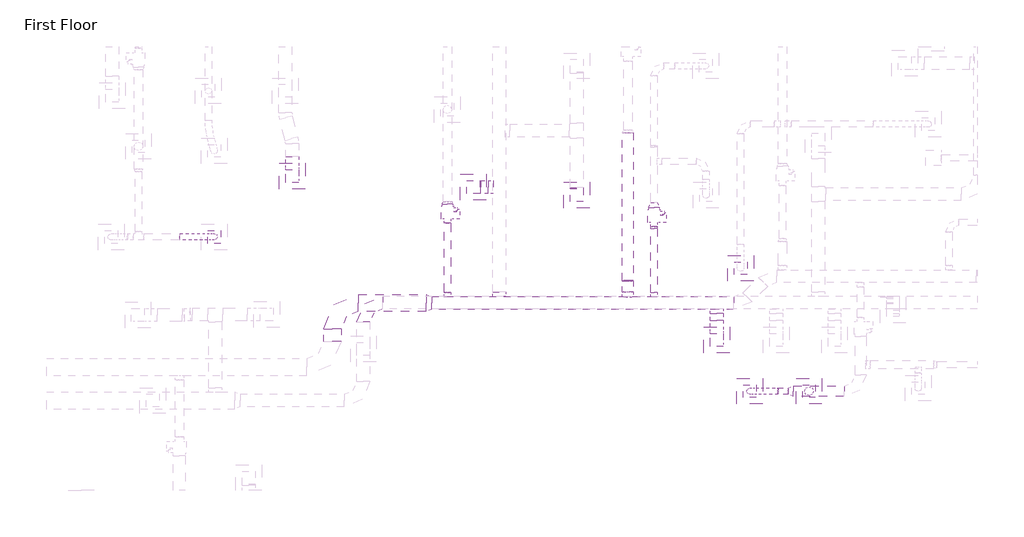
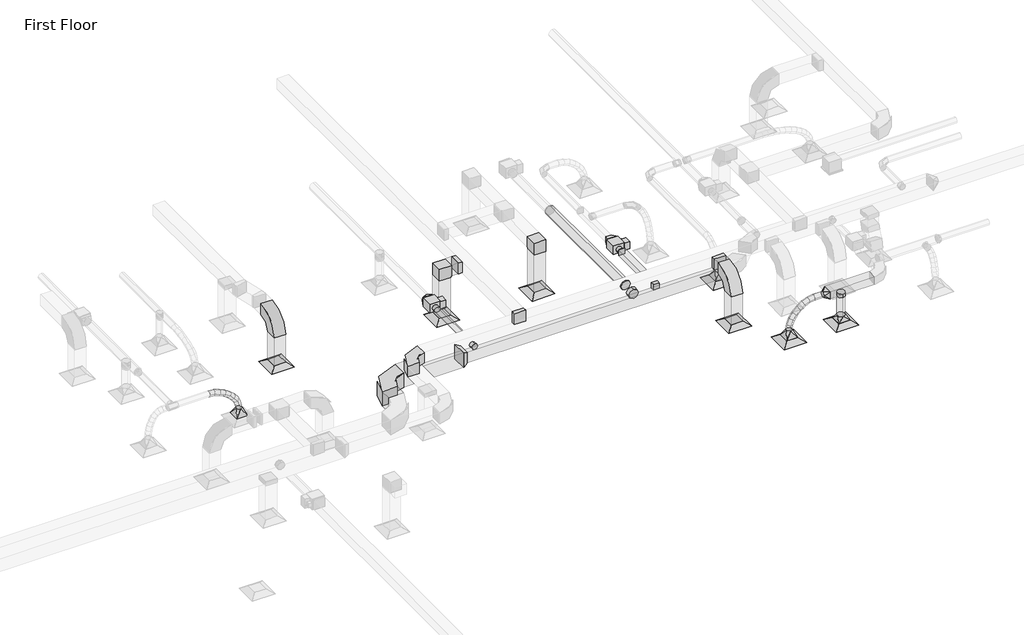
# One storey, part 19 of 61: 23 duct fittings, 18 duct segments, 7 air terminals, 2 proxies.
"""IFC4 building model written with IfcOpenShell, lengths in millimetres."""

from ifc_helpers import new_model, si_unit, point, frame, frame_2d, origin, place, context, project, spatial, polyline, circle_curve, ellipse_curve, trimmed, segment, composite_curve, outline, extrude, transform, mapped, element, save
from ifc_brep_helpers import plane_surface, cylinder_surface, advanced_brep
from components import m_exhaust_grill_er_600_x_600_face_300_x_300_connection_ff221211, m_vav_unit_single_duct_150_mm_ffdab17b, m_rectangular_elbow_mitered_standard_8eee5933, m_rectangular_elbow_radius_1_5_w_86011e9f, m_rectangular_elbow_radius_1_5_w_2e3e53bc, m_rectangular_takeoff_standard_c00386d1, m_rectangular_takeoff_standard_b44bfa45, m_rectangular_takeoff_standard_5fad1069, m_rectangular_transition_angle_45_degree_d90ebce3, m_rectangular_transition_angle_45_degree_c81a1194, m_rectangular_to_round_transition_angle_45_degree_8f201c83, m_rectangular_to_round_transition_angle_45_degree_c3b12eae, m_rectangular_to_round_transition_angle_45_degree_2860c485, m_rectangular_to_round_transition_angle_45_degree_1b7ae117, m_rectangular_to_round_transition_angle_45_degree_fe40cbe3, m_round_elbow_1_5_d_b66a0a7e, m_round_takeoff_standard_8efdd074, m_round_takeoff_standard_24c67b50, m_round_takeoff_standard_3d7a5062

model = new_model("IFC4")

# Units and contexts
model_context = context("Model", 3, world=origin())
ifc_project = project(units=[si_unit("LENGTHUNIT", "METRE", prefix="MILLI")], contexts=[model_context])

# Site, building, storey
site = spatial("IfcSite", under=ifc_project)
building = spatial("IfcBuilding", under=site)
storey = spatial("IfcBuildingStorey", under=building, Name="First Floor", Elevation=0.0)

# Air terminals
placement = place(None, origin())
m_exhaust_grill_er_600_x_600_face_300_x_300_connection_shape = m_exhaust_grill_er_600_x_600_face_300_x_300_connection_ff221211(model_context)
element("IfcAirTerminal", 1, ObjectType="M_Return Register : RR-600 x 600 Face 300 x 300 Connection", at=placement, inside=storey, context=model_context, shape_type="MappedRepresentation", body=[
    mapped(m_exhaust_grill_er_600_x_600_face_300_x_300_connection_shape, transform((-10620.9734193, 12189.4764857, 2680.0), x_axis=(1.0, 0.0, 0.0), y_axis=(0.0, 1.0, 0.0), z_axis=(0.0, 0.0, 1.0))),
])
element("IfcAirTerminal", 2, ObjectType="M_Return Register : RR-600 x 600 Face 300 x 300 Connection", at=placement, inside=storey, context=model_context, shape_type="MappedRepresentation", body=[
    mapped(m_exhaust_grill_er_600_x_600_face_300_x_300_connection_shape, transform((-13865.3877031, 15548.9958677, 2680.0), x_axis=(1.0, 0.0, 0.0), y_axis=(0.0, 1.0, 0.0), z_axis=(0.0, 0.0, 1.0))),
])
element("IfcAirTerminal", 3, ObjectType="M_Return Register : RR-600 x 600 Face 300 x 300 Connection", at=placement, inside=storey, context=model_context, shape_type="MappedRepresentation", body=[
    mapped(m_exhaust_grill_er_600_x_600_face_300_x_300_connection_shape, transform((-16264.984961, 15733.600359, 2680.0), x_axis=(1.0, 0.0, 0.0), y_axis=(0.0, 1.0, 0.0), z_axis=(0.0, 0.0, 1.0))),
])
element("IfcAirTerminal", 4, ObjectType="M_Return Register : RR-600 x 600 Face 300 x 300 Connection", at=placement, inside=storey, context=model_context, shape_type="MappedRepresentation", body=[
    mapped(m_exhaust_grill_er_600_x_600_face_300_x_300_connection_shape, transform((-20470.7099363, 15993.554641, 2680.0), x_axis=(1.0, 0.0, 0.0), y_axis=(0.0, 1.0, 0.0), z_axis=(0.0, 0.0, 1.0))),
])
element("IfcAirTerminal", 5, ObjectType="M_Supply Diffuser : SD-600 x 600 Face 300 x 300 Connection", at=placement, inside=storey, context=model_context, shape_type="MappedRepresentation", body=[
    mapped(m_exhaust_grill_er_600_x_600_face_300_x_300_connection_shape, transform((-10064.6506734, 13851.0402346, 2680.0), x_axis=(1.0, 0.0, 0.0), y_axis=(0.0, 1.0, 0.0), z_axis=(0.0, 0.0, 1.0))),
])
element("IfcAirTerminal", 6, ObjectType="M_Supply Diffuser : SD-600 x 600 Face 300 x 300 Connection", at=placement, inside=storey, context=model_context, shape_type="MappedRepresentation", body=[
    mapped(m_exhaust_grill_er_600_x_600_face_300_x_300_connection_shape, transform((-9848.7483694, 10997.0419271, 2680.0), x_axis=(1.0, 0.0, 0.0), y_axis=(0.0, 1.0, 0.0), z_axis=(0.0, 0.0, 1.0))),
])
element("IfcAirTerminal", 7, ObjectType="M_Supply Diffuser : SD-600 x 600 Face 300 x 300 Connection", at=placement, inside=storey, context=model_context, shape_type="MappedRepresentation", body=[
    mapped(m_exhaust_grill_er_600_x_600_face_300_x_300_connection_shape, transform((-8477.637011, 10997.0419271, 2680.0), x_axis=(1.0, 0.0, 0.0), y_axis=(0.0, 1.0, 0.0), z_axis=(0.0, 0.0, 1.0))),
])

# Proxies
m_vav_unit_single_duct_150_mm_shape = m_vav_unit_single_duct_150_mm_ffdab17b(model_context)
element("IfcBuildingElementProxy", 8, Name="M_VAV Unit - Single Duct : 150 mm", ObjectType="M_VAV Unit - Single Duct : 150 mm", at=placement, inside=storey, context=model_context, shape_type="MappedRepresentation", body=[
    mapped(m_vav_unit_single_duct_150_mm_shape, transform((-12071.862176, 14917.5073912, 3500.0), x_axis=(0.0, 1.0, 0.0), y_axis=(-0.9999999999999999, 0.0, 0.0), z_axis=(0.0, 0.0, 0.9999999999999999))),
])
element("IfcBuildingElementProxy", 9, Name="M_VAV Unit - Single Duct : 150 mm", ObjectType="M_VAV Unit - Single Duct : 150 mm", at=placement, inside=storey, context=model_context, shape_type="MappedRepresentation", body=[
    mapped(m_vav_unit_single_duct_150_mm_shape, transform((-16867.9125198, 14998.591812, 3500.0), x_axis=(0.0, 1.0, 0.0), y_axis=(-1.0, 0.0, 0.0), z_axis=(0.0, 0.0, 1.0))),
])

# Duct fittings
m_rectangular_elbow_mitered_standard_shape = m_rectangular_elbow_mitered_standard_8eee5933(model_context)
element("IfcDuctFitting", 10, ObjectType="M_Rectangular Elbow - Mitered : Standard", at=placement, inside=storey, context=model_context, shape_type="MappedRepresentation", body=[
    mapped(m_rectangular_elbow_mitered_standard_shape, transform((-16264.984961, 15733.600359, 4000.0), x_axis=(0.0, 0.0, 1.0), y_axis=(1.0, 0.0, 0.0), z_axis=(0.0, 1.0, 0.0))),
])
element("IfcDuctFitting", 11, ObjectType="M_Rectangular Elbow - Mitered : Standard", at=placement, inside=storey, context=model_context, shape_type="MappedRepresentation", body=[
    mapped(m_rectangular_elbow_mitered_standard_shape, transform((-13865.3877031, 15548.9958677, 4000.0), x_axis=(0.0, 0.0, 1.0), y_axis=(0.0, 1.0, 0.0), z_axis=(-1.0, 0.0, 0.0))),
])
m_rectangular_elbow_radius_1_5_w_shape = m_rectangular_elbow_radius_1_5_w_86011e9f(model_context)
element("IfcDuctFitting", 12, ObjectType="M_Rectangular Elbow - Radius : 1.5 W", at=placement, inside=storey, context=model_context, shape_type="MappedRepresentation", body=[
    mapped(m_rectangular_elbow_radius_1_5_w_shape, transform((-10620.9734193, 12189.4764857, 4000.0), x_axis=(0.0, -1.0, 0.0), y_axis=(0.0, 0.0, -1.0), z_axis=(1.0, 0.0, 0.0))),
])
element("IfcDuctFitting", 13, ObjectType="M_Rectangular Elbow - Radius : 1.5 W", at=placement, inside=storey, context=model_context, shape_type="MappedRepresentation", body=[
    mapped(m_rectangular_elbow_radius_1_5_w_shape, transform((-18815.882948, 13054.4648445, 4000.0), x_axis=(-1.0, 0.0, 0.0), y_axis=(0.0, -1.0, 0.0), z_axis=(0.0, 0.0, 1.0))),
])
element("IfcDuctFitting", 14, ObjectType="M_Rectangular Elbow - Radius : 1.5 W", at=placement, inside=storey, context=model_context, shape_type="MappedRepresentation", body=[
    mapped(m_rectangular_elbow_radius_1_5_w_shape, transform((-20470.7099363, 15993.554641, 4000.0), x_axis=(0.0, 0.0, 1.0), y_axis=(0.0, 1.0, 0.0), z_axis=(-1.0, 0.0, 0.0))),
])
m_rectangular_elbow_radius_1_5_w_2_shape = m_rectangular_elbow_radius_1_5_w_2e3e53bc(model_context)
element("IfcDuctFitting", 15, ObjectType="M_Rectangular Elbow - Radius : 1.5 W", at=placement, inside=storey, context=model_context, shape_type="MappedRepresentation", body=[
    mapped(m_rectangular_elbow_radius_1_5_w_2_shape, transform((-19535.3729051, 13043.9492446, 3609.5), x_axis=(-1.0, 0.0, 0.0), y_axis=(0.0, -1.0, 0.0), z_axis=(0.0, 0.0, 1.0))),
])
m_rectangular_takeoff_standard_shape = m_rectangular_takeoff_standard_c00386d1(model_context)
element("IfcDuctFitting", 16, ObjectType="M_Rectangular Takeoff : Standard", at=placement, inside=storey, context=model_context, shape_type="MappedRepresentation", body=[
    mapped(m_rectangular_takeoff_standard_shape, transform((-10620.9734193, 12904.4648445, 4000.0), x_axis=(0.0, -1.0, 0.0), y_axis=(-1.0, 0.0, 0.0), z_axis=(0.0, 0.0, -1.0))),
])
m_rectangular_takeoff_standard_2_shape = m_rectangular_takeoff_standard_b44bfa45(model_context)
element("IfcDuctFitting", 17, ObjectType="M_Rectangular Takeoff : Standard", at=placement, inside=storey, context=model_context, shape_type="MappedRepresentation", body=[
    mapped(m_rectangular_takeoff_standard_2_shape, transform((-15815.3877031, 15733.600359, 4000.0), x_axis=(-1.0, 0.0, 0.0), y_axis=(0.0, 1.0, 0.0), z_axis=(0.0, 0.0, -1.0))),
])
element("IfcDuctFitting", 18, ObjectType="M_Rectangular Takeoff : Standard", at=placement, inside=storey, context=model_context, shape_type="MappedRepresentation", body=[
    mapped(m_rectangular_takeoff_standard_2_shape, transform((-15665.3877031, 13204.4648445, 4000.0), x_axis=(0.0, 1.0, 0.0), y_axis=(1.0, 0.0, 0.0), z_axis=(0.0, 0.0, -1.0))),
])
m_rectangular_takeoff_standard_3_shape = m_rectangular_takeoff_standard_5fad1069(model_context)
element("IfcDuctFitting", 19, ObjectType="M_Rectangular Takeoff : Standard", at=placement, inside=storey, context=model_context, shape_type="MappedRepresentation", body=[
    mapped(m_rectangular_takeoff_standard_3_shape, transform((-12072.712176, 13193.9492446, 3609.5021985), x_axis=(0.0, 0.9999999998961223, 1.4413723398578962e-05), y_axis=(1.0, 0.0, 0.0), z_axis=(0.0, 1.4413723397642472e-05, -0.9999999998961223))),
])
m_rectangular_transition_angle_45_degree_shape = m_rectangular_transition_angle_45_degree_d90ebce3(model_context)
element("IfcDuctFitting", 20, ObjectType="M_Rectangular Transition - Angle : 45 Degree", at=placement, inside=storey, context=model_context, shape_type="MappedRepresentation", body=[
    mapped(m_rectangular_transition_angle_45_degree_shape, transform((-12071.862176, 15260.3073912, 3619.05), x_axis=(0.0, 1.0, 0.0), y_axis=(-1.0, 0.0, 0.0), z_axis=(0.0, 0.0, 1.0))),
])
m_rectangular_transition_angle_45_degree_2_shape = m_rectangular_transition_angle_45_degree_c81a1194(model_context)
element("IfcDuctFitting", 21, ObjectType="M_Rectangular Transition - Angle : 45 Degree", at=placement, inside=storey, context=model_context, shape_type="MappedRepresentation", body=[
    mapped(m_rectangular_transition_angle_45_degree_2_shape, transform((-17235.3729051, 13043.9492446, 3609.5), x_axis=(-1.0, 0.0, 0.0), y_axis=(0.0, -1.0, 0.0), z_axis=(0.0, 0.0, 1.0))),
])
m_rectangular_to_round_transition_angle_45_degree_shape = m_rectangular_to_round_transition_angle_45_degree_8f201c83(model_context)
element("IfcDuctFitting", 22, ObjectType="M_Rectangular to Round Transition - Angle : 45 Degree", at=placement, inside=storey, context=model_context, shape_type="MappedRepresentation", body=[
    mapped(m_rectangular_to_round_transition_angle_45_degree_shape, transform((-9848.7483694, 10997.0419271, 2781.6), x_axis=(0.0, 0.0, 1.0), y_axis=(1.0, 0.0, 0.0), z_axis=(0.0, 1.0, 0.0))),
])
element("IfcDuctFitting", 23, ObjectType="M_Rectangular to Round Transition - Angle : 45 Degree", at=placement, inside=storey, context=model_context, shape_type="MappedRepresentation", body=[
    mapped(m_rectangular_to_round_transition_angle_45_degree_shape, transform((-10064.6506734, 13851.0402346, 2781.6), x_axis=(0.0, 0.0, 1.0), y_axis=(1.0, 0.0, 0.0), z_axis=(0.0, 1.0, 0.0))),
])
element("IfcDuctFitting", 24, ObjectType="M_Rectangular to Round Transition - Angle : 45 Degree", at=placement, inside=storey, context=model_context, shape_type="MappedRepresentation", body=[
    mapped(m_rectangular_to_round_transition_angle_45_degree_shape, transform((-22276.7081761, 14579.6926206, 2781.6), x_axis=(0.0, 0.0, 1.0), y_axis=(1.0, 0.0, 0.0), z_axis=(0.0, 1.0, 0.0))),
])
m_rectangular_to_round_transition_angle_45_degree_2_shape = m_rectangular_to_round_transition_angle_45_degree_c3b12eae(model_context)
element("IfcDuctFitting", 25, ObjectType="M_Rectangular to Round Transition - Angle : 45 Degree", at=placement, inside=storey, context=model_context, shape_type="MappedRepresentation", body=[
    mapped(m_rectangular_to_round_transition_angle_45_degree_2_shape, transform((-8840.0, 10997.0419271, 3628.625), x_axis=(-1.0, 0.0, 0.0), y_axis=(0.0, -1.0, 0.0), z_axis=(0.0, 0.0, 1.0))),
])
m_rectangular_to_round_transition_angle_45_degree_3_shape = m_rectangular_to_round_transition_angle_45_degree_2860c485(model_context)
element("IfcDuctFitting", 26, ObjectType="M_Rectangular to Round Transition - Angle : 45 Degree", at=placement, inside=storey, context=model_context, shape_type="MappedRepresentation", body=[
    mapped(m_rectangular_to_round_transition_angle_45_degree_3_shape, transform((-12072.712176, 14778.4073912, 3609.5244595), x_axis=(0.0, 0.9999999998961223, 1.4413723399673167e-05), y_axis=(-1.0, 0.0, 0.0), z_axis=(0.0, -1.4413723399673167e-05, 0.9999999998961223))),
])
m_rectangular_to_round_transition_angle_45_degree_4_shape = m_rectangular_to_round_transition_angle_45_degree_1b7ae117(model_context)
element("IfcDuctFitting", 27, ObjectType="M_Rectangular to Round Transition - Angle : 45 Degree", at=placement, inside=storey, context=model_context, shape_type="MappedRepresentation", body=[
    mapped(m_rectangular_to_round_transition_angle_45_degree_4_shape, transform((-16867.9125198, 15341.391812, 3619.05), x_axis=(0.0, 1.0, 0.0), y_axis=(-1.0, 0.0, 0.0), z_axis=(0.0, 0.0, 1.0))),
])
m_rectangular_to_round_transition_angle_45_degree_5_shape = m_rectangular_to_round_transition_angle_45_degree_fe40cbe3(model_context)
element("IfcDuctFitting", 28, ObjectType="M_Rectangular to Round Transition - Angle : 45 Degree", at=placement, inside=storey, context=model_context, shape_type="MappedRepresentation", body=[
    mapped(m_rectangular_to_round_transition_angle_45_degree_5_shape, transform((-8477.637011, 10997.0419271, 2781.6), x_axis=(0.0, 0.0, 1.0), y_axis=(0.0, -1.0, 0.0), z_axis=(1.0, 0.0, 0.0))),
])
m_round_elbow_1_5_d_shape = m_round_elbow_1_5_d_b66a0a7e(model_context)
element("IfcDuctFitting", 29, ObjectType="M_Round Elbow : 1.5 D", at=placement, inside=storey, context=model_context, shape_type="MappedRepresentation", body=[
    mapped(m_round_elbow_1_5_d_shape, transform((-12680.8992424, 13560.9596581, 3634.6), x_axis=(0.0, -0.9999999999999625, -2.741713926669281e-07), y_axis=(0.0, 2.741713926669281e-07, -0.9999999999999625), z_axis=(1.0, 0.0, 0.0))),
])
m_round_takeoff_standard_shape = m_round_takeoff_standard_8efdd074(model_context)
element("IfcDuctFitting", 30, ObjectType="M_Round Takeoff : Standard", at=placement, inside=storey, context=model_context, shape_type="MappedRepresentation", body=[
    mapped(m_round_takeoff_standard_shape, transform((-8477.637011, 10997.0419271, 3528.625), x_axis=(0.0, 0.0, -1.0), y_axis=(0.0, 1.0, 0.0), z_axis=(1.0, 0.0, 0.0))),
])
m_round_takeoff_standard_2_shape = m_round_takeoff_standard_24c67b50(model_context)
element("IfcDuctFitting", 31, ObjectType="M_Round Takeoff : Standard", at=placement, inside=storey, context=model_context, shape_type="MappedRepresentation", body=[
    mapped(m_round_takeoff_standard_2_shape, transform((-12680.8992424, 13193.9492446, 3616.7822518), x_axis=(0.0, 0.9988236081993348, 0.04849123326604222), y_axis=(1.0, 0.0, 0.0), z_axis=(0.0, 0.04849123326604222, -0.9988236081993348))),
])
m_round_takeoff_standard_3_shape = m_round_takeoff_standard_3d7a5062(model_context)
element("IfcDuctFitting", 32, ObjectType="M_Round Takeoff : Standard", at=placement, inside=storey, context=model_context, shape_type="MappedRepresentation", body=[
    mapped(m_round_takeoff_standard_3_shape, transform((-16868.7625198, 13193.9492446, 3609.5020237), x_axis=(0.0, 0.9999999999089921, 1.3491325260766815e-05), y_axis=(1.0000000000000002, 0.0, 0.0), z_axis=(0.0, 1.3491325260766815e-05, -0.9999999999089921))),
])

# Duct segments
element("IfcDuctSegment", 33, ObjectType="Flex - Round", at=placement, inside=storey, context=model_context, shape_type="AdvancedBrep", body=[
    advanced_brep(
    [(-9200.0, 10922.0419271, 3628.625), (-9188.5492894, 10997.0419271, 3554.5042794), (-9200.0, 11072.0419271, 3628.625), (-9211.4507106, 10997.0419271, 3702.7457206), (-9333.5162447, 10922.0419271, 3607.9984348), (-9312.3980074, 10997.0419271, 3535.3712244), (-9333.5162447, 11072.0419271, 3607.9984348), (-9354.634482, 10997.0419271, 3680.6256453), (-9848.7483694, 10922.0419271, 2962.6660172), (-9922.9583659, 10997.0419271, 2973.5231079), (-9848.7483694, 11072.0419271, 2962.6660172), (-9774.5383729, 10997.0419271, 2951.8089265), (-9464.1422622, 10922.0419271, 3550.8091163), (-9426.8928836, 10997.0419271, 3485.2442737), (-9464.1422622, 11072.0419271, 3550.8091163), (-9501.3916409, 10997.0419271, 3616.373959), (-9585.4446077, 10922.0419271, 3464.09261), (-9536.2660533, 10997.0419271, 3407.0556852), (-9585.4446077, 11072.0419271, 3464.09261), (-9634.623162, 10997.0419271, 3521.1295348), (-9690.989836, 10922.0419271, 3354.8844814), (-9632.3833246, 10997.0419271, 3307.6027068), (-9690.989836, 11072.0419271, 3354.8844814), (-9749.5963474, 10997.0419271, 3402.1662561), (-9774.3445024, 10922.0419271, 3230.2202961), (-9707.8315646, 10997.0419271, 3194.7632727), (-9774.3445024, 11072.0419271, 3230.2202961), (-9840.8574401, 10997.0419271, 3265.6773195), (-9829.0751618, 10922.0419271, 3097.1356195), (-9756.2012599, 10997.0419271, 3077.1461033), (-9829.0751618, 11072.0419271, 3097.1356195), (-9901.9490638, 10997.0419271, 3117.1251357)],
    [
        (0, 1, circle_curve(frame((-9200.0, 10997.0419271, 3628.625), z_axis=(0.9882762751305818, 0.0, 0.15267614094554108), x_axis=(0.0, -1.0, 0.0)), 75.0)),
        (1, 2, circle_curve(frame((-9200.0, 10997.0419271, 3628.625), z_axis=(0.9882762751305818, 0.0, 0.15267614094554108), x_axis=(0.0, -1.0, 0.0)), 75.0)),
        (2, 3, circle_curve(frame((-9200.0, 10997.0419271, 3628.625), z_axis=(0.9882762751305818, 0.0, 0.15267614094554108), x_axis=(0.0, -1.0, 0.0)), 75.0)),
        (3, 0, circle_curve(frame((-9200.0, 10997.0419271, 3628.625), z_axis=(0.9882762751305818, 0.0, 0.15267614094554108), x_axis=(0.0, -1.0, 0.0)), 75.0)),
        (0, 4),
        (4, 5, ellipse_curve(frame((-9333.5162447, 10997.0419271, 3607.9984348), z_axis=(0.9602296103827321, 0.0, 0.2792115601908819), x_axis=(0.2792115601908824, 0.0, -0.960229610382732)), 75.635254, 75.0)),
        (5, 1),
        (5, 6, ellipse_curve(frame((-9333.5162447, 10997.0419271, 3607.9984348), z_axis=(0.9602296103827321, 0.0, 0.2792115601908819), x_axis=(0.2792115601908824, 0.0, -0.960229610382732)), 75.635254, 75.0)),
        (6, 2),
        (6, 7, ellipse_curve(frame((-9333.5162447, 10997.0419271, 3607.9984348), z_axis=(0.9602296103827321, 0.0, 0.2792115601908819), x_axis=(0.2792115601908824, 0.0, -0.960229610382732)), 75.635254, 75.0)),
        (7, 3),
        (7, 4, ellipse_curve(frame((-9333.5162447, 10997.0419271, 3607.9984348), z_axis=(0.9602296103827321, 0.0, 0.2792115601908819), x_axis=(0.2792115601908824, 0.0, -0.960229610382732)), 75.635254, 75.0)),
        (8, 9, circle_curve(frame((-9848.7483694, 10997.0419271, 2962.6660172), z_axis=(-0.1447612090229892, 0.0, -0.9894666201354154), x_axis=(0.0, -1.0, 0.0)), 75.0)),
        (9, 10, circle_curve(frame((-9848.7483694, 10997.0419271, 2962.6660172), z_axis=(-0.1447612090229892, 0.0, -0.9894666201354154), x_axis=(0.0, -1.0, 0.0)), 75.0)),
        (10, 11, circle_curve(frame((-9848.7483694, 10997.0419271, 2962.6660172), z_axis=(-0.1447612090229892, 0.0, -0.9894666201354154), x_axis=(0.0, -1.0, 0.0)), 75.0)),
        (11, 8, circle_curve(frame((-9848.7483694, 10997.0419271, 2962.6660172), z_axis=(-0.1447612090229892, 0.0, -0.9894666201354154), x_axis=(0.0, -1.0, 0.0)), 75.0)),
        (4, 12),
        (12, 13, ellipse_curve(frame((-9464.1422622, 10997.0419271, 3550.8091163), z_axis=(0.8694757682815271, 0.0, 0.4939755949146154), x_axis=(0.49397559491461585, 0.0, -0.8694757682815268)), 75.4073259, 75.0)),
        (13, 5),
        (13, 14, ellipse_curve(frame((-9464.1422622, 10997.0419271, 3550.8091163), z_axis=(0.8694757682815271, 0.0, 0.4939755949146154), x_axis=(0.49397559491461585, 0.0, -0.8694757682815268)), 75.4073259, 75.0)),
        (14, 6),
        (14, 15, ellipse_curve(frame((-9464.1422622, 10997.0419271, 3550.8091163), z_axis=(0.8694757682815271, 0.0, 0.4939755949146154), x_axis=(0.49397559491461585, 0.0, -0.8694757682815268)), 75.4073259, 75.0)),
        (15, 7),
        (15, 12, ellipse_curve(frame((-9464.1422622, 10997.0419271, 3550.8091163), z_axis=(0.8694757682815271, 0.0, 0.4939755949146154), x_axis=(0.49397559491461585, 0.0, -0.8694757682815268)), 75.4073259, 75.0)),
        (12, 16),
        (16, 17, ellipse_curve(frame((-9585.4446077, 10997.0419271, 3464.09261), z_axis=(0.7573522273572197, 0.0, 0.6530065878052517), x_axis=(0.6530065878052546, 0.0, -0.7573522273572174)), 75.310962, 75.0)),
        (17, 13),
        (17, 18, ellipse_curve(frame((-9585.4446077, 10997.0419271, 3464.09261), z_axis=(0.7573522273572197, 0.0, 0.6530065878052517), x_axis=(0.6530065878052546, 0.0, -0.7573522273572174)), 75.310962, 75.0)),
        (18, 14),
        (18, 19, ellipse_curve(frame((-9585.4446077, 10997.0419271, 3464.09261), z_axis=(0.7573522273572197, 0.0, 0.6530065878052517), x_axis=(0.6530065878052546, 0.0, -0.7573522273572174)), 75.310962, 75.0)),
        (19, 15),
        (19, 16, ellipse_curve(frame((-9585.4446077, 10997.0419271, 3464.09261), z_axis=(0.7573522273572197, 0.0, 0.6530065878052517), x_axis=(0.6530065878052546, 0.0, -0.7573522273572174)), 75.310962, 75.0)),
        (16, 20),
        (20, 21, ellipse_curve(frame((-9690.989836, 10997.0419271, 3354.8844814), z_axis=(0.6279009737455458, 0.0, 0.7782932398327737), x_axis=(0.7782932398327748, 0.0, -0.6279009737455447)), 75.301324, 75.0)),
        (21, 17),
        (21, 22, ellipse_curve(frame((-9690.989836, 10997.0419271, 3354.8844814), z_axis=(0.6279009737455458, 0.0, 0.7782932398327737), x_axis=(0.7782932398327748, 0.0, -0.6279009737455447)), 75.301324, 75.0)),
        (22, 18),
        (22, 23, ellipse_curve(frame((-9690.989836, 10997.0419271, 3354.8844814), z_axis=(0.6279009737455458, 0.0, 0.7782932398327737), x_axis=(0.7782932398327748, 0.0, -0.6279009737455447)), 75.301324, 75.0)),
        (23, 19),
        (23, 20, ellipse_curve(frame((-9690.989836, 10997.0419271, 3354.8844814), z_axis=(0.6279009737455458, 0.0, 0.7782932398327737), x_axis=(0.7782932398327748, 0.0, -0.6279009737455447)), 75.301324, 75.0)),
        (20, 24),
        (24, 25, ellipse_curve(frame((-9774.3445024, 10997.0419271, 3230.2202961), z_axis=(0.47041734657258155, 0.0, 0.8824440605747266), x_axis=(0.8824440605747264, 0.0, -0.47041734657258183)), 75.3735457, 75.0)),
        (25, 21),
        (25, 26, ellipse_curve(frame((-9774.3445024, 10997.0419271, 3230.2202961), z_axis=(0.47041734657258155, 0.0, 0.8824440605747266), x_axis=(0.8824440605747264, 0.0, -0.47041734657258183)), 75.3735457, 75.0)),
        (26, 22),
        (26, 27, ellipse_curve(frame((-9774.3445024, 10997.0419271, 3230.2202961), z_axis=(0.47041734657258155, 0.0, 0.8824440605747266), x_axis=(0.8824440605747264, 0.0, -0.47041734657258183)), 75.3735457, 75.0)),
        (27, 23),
        (27, 24, ellipse_curve(frame((-9774.3445024, 10997.0419271, 3230.2202961), z_axis=(0.47041734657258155, 0.0, 0.8824440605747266), x_axis=(0.8824440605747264, 0.0, -0.47041734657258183)), 75.3735457, 75.0)),
        (24, 28),
        (28, 29, ellipse_curve(frame((-9829.0751618, 10997.0419271, 3097.1356195), z_axis=(0.2645313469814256, 0.0, 0.9643770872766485), x_axis=(0.9643770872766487, 0.0, -0.2645313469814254)), 75.565775, 75.0)),
        (29, 25),
        (29, 30, ellipse_curve(frame((-9829.0751618, 10997.0419271, 3097.1356195), z_axis=(0.2645313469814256, 0.0, 0.9643770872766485), x_axis=(0.9643770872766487, 0.0, -0.2645313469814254)), 75.565775, 75.0)),
        (30, 26),
        (30, 31, ellipse_curve(frame((-9829.0751618, 10997.0419271, 3097.1356195), z_axis=(0.2645313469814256, 0.0, 0.9643770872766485), x_axis=(0.9643770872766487, 0.0, -0.2645313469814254)), 75.565775, 75.0)),
        (31, 27),
        (31, 28, ellipse_curve(frame((-9829.0751618, 10997.0419271, 3097.1356195), z_axis=(0.2645313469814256, 0.0, 0.9643770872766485), x_axis=(0.9643770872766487, 0.0, -0.2645313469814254)), 75.565775, 75.0)),
        (28, 8),
        (11, 29),
        (10, 30),
        (9, 31),
    ],
    [
        plane_surface(frame((-9200.0, 11072.0419271, 3628.625), z_axis=(0.9882762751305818, 0.0, 0.152676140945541), x_axis=(0.152676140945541, 0.0, -0.9882762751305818))),
        cylinder_surface(frame((-9200.0, 10997.0419271, 3628.625), z_axis=(0.9882762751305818, 0.0, 0.15267614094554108), x_axis=(0.0, -1.0, 0.0)), 75.0),
        plane_surface(frame((-9848.7483694, 11072.0419271, 2962.6660172), z_axis=(-0.14476120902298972, 0.0, -0.9894666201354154), x_axis=(0.9894666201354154, 0.0, -0.14476120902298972))),
        cylinder_surface(frame((-9333.5162447, 10997.0419271, 3607.9984348), z_axis=(0.9160531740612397, 0.0, 0.4010568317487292), x_axis=(0.0, -1.0, 0.0)), 75.0),
        cylinder_surface(frame((-9464.1422622, 10997.0419271, 3550.8091163), z_axis=(0.8135051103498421, 0.0, 0.5815577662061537), x_axis=(0.0, -1.0, 0.0)), 75.0),
        cylinder_surface(frame((-9585.4446077, 10997.0419271, 3464.09261), z_axis=(0.6949450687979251, 0.0, 0.7190628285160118), x_axis=(0.0, -1.0, 0.0)), 75.0),
        cylinder_surface(frame((-9690.989836, 10997.0419271, 3354.8844814), z_axis=(0.5558316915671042, 0.0, 0.8312948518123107), x_axis=(0.0, -1.0, 0.0)), 75.0),
        cylinder_surface(frame((-9774.3445024, 10997.0419271, 3230.2202961), z_axis=(0.3803402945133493, 0.0, 0.9248466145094), x_axis=(0.0, -1.0, 0.0)), 75.0),
        cylinder_surface(frame((-9829.0751618, 10997.0419271, 3097.1356195), z_axis=(0.1447612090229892, 0.0, 0.9894666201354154), x_axis=(0.0, -1.0, 0.0)), 75.0),
    ],
    [
        (0, [[1, 2, 3, 4]]),
        (1, [[-1, 5, 6, 7]]),
        (1, [[-2, -7, 8, 9]]),
        (1, [[-3, -9, 10, 11]]),
        (1, [[-4, -11, 12, -5]]),
        (2, [[13, 14, 15, 16]]),
        (3, [[-6, 17, 18, 19]]),
        (3, [[-8, -19, 20, 21]]),
        (3, [[-10, -21, 22, 23]]),
        (3, [[-12, -23, 24, -17]]),
        (4, [[-18, 25, 26, 27]]),
        (4, [[-20, -27, 28, 29]]),
        (4, [[-22, -29, 30, 31]]),
        (4, [[-24, -31, 32, -25]]),
        (5, [[-26, 33, 34, 35]]),
        (5, [[-28, -35, 36, 37]]),
        (5, [[-30, -37, 38, 39]]),
        (5, [[-32, -39, 40, -33]]),
        (6, [[-34, 41, 42, 43]]),
        (6, [[-36, -43, 44, 45]]),
        (6, [[-38, -45, 46, 47]]),
        (6, [[-40, -47, 48, -41]]),
        (7, [[-42, 49, 50, 51]]),
        (7, [[-44, -51, 52, 53]]),
        (7, [[-46, -53, 54, 55]]),
        (7, [[-48, -55, 56, -49]]),
        (8, [[-50, 57, -16, 58]]),
        (8, [[-52, -58, -15, 59]]),
        (8, [[-54, -59, -14, 60]]),
        (8, [[-56, -60, -13, -57]]),
    ],
),
])
element("IfcDuctSegment", 34, ObjectType="Flex - Round", at=placement, inside=storey, context=model_context, shape_type="AdvancedBrep", body=[
    advanced_brep(
    [(-23074.890372, 14654.6926206, 3619.1), (-23082.7727284, 14579.6926206, 3544.5153605), (-23074.890372, 14504.6926206, 3619.1), (-23067.0080155, 14579.6926206, 3693.6846395), (-22941.6899433, 14654.6926206, 3605.0229291), (-22956.2810892, 14579.6926206, 3531.147297), (-22941.6899433, 14504.6926206, 3605.0229291), (-22927.0987975, 14579.6926206, 3678.8985611), (-22276.7081761, 14654.6926206, 2962.6660172), (-22202.6347604, 14579.6926206, 2974.4188502), (-22276.7081761, 14504.6926206, 2962.6660172), (-22350.7815918, 14579.6926206, 2950.9131842), (-22804.846757, 14654.6926206, 3564.9747391), (-22831.4490696, 14579.6926206, 3494.6142655), (-22804.846757, 14504.6926206, 3564.9747391), (-22778.2444445, 14579.6926206, 3635.3352127), (-22670.9575711, 14654.6926206, 3502.2299644), (-22707.7401715, 14579.6926206, 3436.6403008), (-22670.9575711, 14504.6926206, 3502.2299644), (-22634.1749707, 14579.6926206, 3567.819628), (-22546.6191435, 14654.6926206, 3420.0631391), (-22592.7852815, 14579.6926206, 3360.6744184), (-22546.6191435, 14504.6926206, 3420.0631391), (-22500.4530056, 14579.6926206, 3479.4518598), (-22438.4282323, 14654.6926206, 3321.7487975), (-22493.8190861, 14579.6926206, 3270.7426837), (-22438.4282323, 14504.6926206, 3321.7487975), (-22383.0373784, 14579.6926206, 3372.7549113), (-22352.9815953, 14654.6926206, 3210.5614738), (-22417.5058696, 14579.6926206, 3171.4402114), (-22352.9815953, 14504.6926206, 3210.5614738), (-22288.4573209, 14579.6926206, 3249.6827362), (-22296.8759906, 14654.6926206, 3089.7757023), (-22369.3081688, 14579.6926206, 3067.6788045), (-22296.8759906, 14504.6926206, 3089.7757023), (-22224.4438123, 14579.6926206, 3111.8726001)],
    [
        (0, 1, circle_curve(frame((-23074.890372, 14579.6926206, 3619.1), z_axis=(-0.994461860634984, 0.0, 0.10509808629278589), x_axis=(0.0, 1.0, 0.0)), 75.0)),
        (1, 2, circle_curve(frame((-23074.890372, 14579.6926206, 3619.1), z_axis=(-0.994461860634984, 0.0, 0.10509808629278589), x_axis=(0.0, 1.0, 0.0)), 75.0)),
        (2, 3, circle_curve(frame((-23074.890372, 14579.6926206, 3619.1), z_axis=(-0.994461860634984, 0.0, 0.10509808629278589), x_axis=(0.0, 1.0, 0.0)), 75.0)),
        (3, 0, circle_curve(frame((-23074.890372, 14579.6926206, 3619.1), z_axis=(-0.994461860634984, 0.0, 0.10509808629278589), x_axis=(0.0, 1.0, 0.0)), 75.0)),
        (0, 4),
        (4, 5, ellipse_curve(frame((-22941.6899433, 14579.6926206, 3605.0229291), z_axis=(-0.9810477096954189, 0.0, 0.19376633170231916), x_axis=(-0.19376633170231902, 0.0, -0.981047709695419)), 75.3027924, 75.0)),
        (5, 1),
        (5, 6, ellipse_curve(frame((-22941.6899433, 14579.6926206, 3605.0229291), z_axis=(-0.9810477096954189, 0.0, 0.19376633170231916), x_axis=(-0.19376633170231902, 0.0, -0.981047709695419)), 75.3027924, 75.0)),
        (6, 2),
        (6, 7, ellipse_curve(frame((-22941.6899433, 14579.6926206, 3605.0229291), z_axis=(-0.9810477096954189, 0.0, 0.19376633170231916), x_axis=(-0.19376633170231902, 0.0, -0.981047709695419)), 75.3027924, 75.0)),
        (7, 3),
        (7, 4, ellipse_curve(frame((-22941.6899433, 14579.6926206, 3605.0229291), z_axis=(-0.9810477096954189, 0.0, 0.19376633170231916), x_axis=(-0.19376633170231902, 0.0, -0.981047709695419)), 75.3027924, 75.0)),
        (8, 9, circle_curve(frame((-22276.7081761, 14579.6926206, 2962.6660172), z_axis=(0.15670444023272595, 0.0, -0.9876455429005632), x_axis=(0.0, 1.0, 0.0)), 75.0)),
        (9, 10, circle_curve(frame((-22276.7081761, 14579.6926206, 2962.6660172), z_axis=(0.15670444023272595, 0.0, -0.9876455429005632), x_axis=(0.0, 1.0, 0.0)), 75.0)),
        (10, 11, circle_curve(frame((-22276.7081761, 14579.6926206, 2962.6660172), z_axis=(0.15670444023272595, 0.0, -0.9876455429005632), x_axis=(0.0, 1.0, 0.0)), 75.0)),
        (11, 8, circle_curve(frame((-22276.7081761, 14579.6926206, 2962.6660172), z_axis=(0.15670444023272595, 0.0, -0.9876455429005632), x_axis=(0.0, 1.0, 0.0)), 75.0)),
        (4, 12),
        (12, 13, ellipse_curve(frame((-22804.846757, 14579.6926206, 3564.9747391), z_axis=(-0.9353767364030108, 0.0, 0.35365288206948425), x_axis=(-0.35365288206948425, 0.0, -0.9353767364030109)), 75.2215346, 75.0)),
        (13, 5),
        (13, 14, ellipse_curve(frame((-22804.846757, 14579.6926206, 3564.9747391), z_axis=(-0.9353767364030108, 0.0, 0.35365288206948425), x_axis=(-0.35365288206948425, 0.0, -0.9353767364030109)), 75.2215346, 75.0)),
        (14, 6),
        (14, 15, ellipse_curve(frame((-22804.846757, 14579.6926206, 3564.9747391), z_axis=(-0.9353767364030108, 0.0, 0.35365288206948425), x_axis=(-0.35365288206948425, 0.0, -0.9353767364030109)), 75.2215346, 75.0)),
        (15, 7),
        (15, 12, ellipse_curve(frame((-22804.846757, 14579.6926206, 3564.9747391), z_axis=(-0.9353767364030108, 0.0, 0.35365288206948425), x_axis=(-0.35365288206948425, 0.0, -0.9353767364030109)), 75.2215346, 75.0)),
        (12, 16),
        (16, 17, ellipse_curve(frame((-22670.9575711, 14579.6926206, 3502.2299644), z_axis=(-0.8722088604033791, 0.0, 0.4891336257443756), x_axis=(-0.4891336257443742, 0.0, -0.8722088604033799)), 75.1994924, 75.0)),
        (17, 13),
        (17, 18, ellipse_curve(frame((-22670.9575711, 14579.6926206, 3502.2299644), z_axis=(-0.8722088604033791, 0.0, 0.4891336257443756), x_axis=(-0.4891336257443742, 0.0, -0.8722088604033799)), 75.1994924, 75.0)),
        (18, 14),
        (18, 19, ellipse_curve(frame((-22670.9575711, 14579.6926206, 3502.2299644), z_axis=(-0.8722088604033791, 0.0, 0.4891336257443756), x_axis=(-0.4891336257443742, 0.0, -0.8722088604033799)), 75.1994924, 75.0)),
        (19, 15),
        (19, 16, ellipse_curve(frame((-22670.9575711, 14579.6926206, 3502.2299644), z_axis=(-0.8722088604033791, 0.0, 0.4891336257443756), x_axis=(-0.4891336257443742, 0.0, -0.8722088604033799)), 75.1994924, 75.0)),
        (16, 20),
        (20, 21, ellipse_curve(frame((-22546.6191435, 14579.6926206, 3420.0631391), z_axis=(-0.7895138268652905, 0.0, 0.6137327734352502), x_axis=(-0.6137327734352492, 0.0, -0.7895138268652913)), 75.221888, 75.0)),
        (21, 17),
        (21, 22, ellipse_curve(frame((-22546.6191435, 14579.6926206, 3420.0631391), z_axis=(-0.7895138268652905, 0.0, 0.6137327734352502), x_axis=(-0.6137327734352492, 0.0, -0.7895138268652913)), 75.221888, 75.0)),
        (22, 18),
        (22, 23, ellipse_curve(frame((-22546.6191435, 14579.6926206, 3420.0631391), z_axis=(-0.7895138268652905, 0.0, 0.6137327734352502), x_axis=(-0.6137327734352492, 0.0, -0.7895138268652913)), 75.221888, 75.0)),
        (23, 19),
        (23, 20, ellipse_curve(frame((-22546.6191435, 14579.6926206, 3420.0631391), z_axis=(-0.7895138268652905, 0.0, 0.6137327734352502), x_axis=(-0.6137327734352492, 0.0, -0.7895138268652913)), 75.221888, 75.0)),
        (20, 24),
        (24, 25, ellipse_curve(frame((-22438.4282323, 14579.6926206, 3321.7487975), z_axis=(-0.6773911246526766, 0.0, 0.7356230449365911), x_axis=(-0.7356230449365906, 0.0, -0.677391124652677)), 75.2978774, 75.0)),
        (25, 21),
        (25, 26, ellipse_curve(frame((-22438.4282323, 14579.6926206, 3321.7487975), z_axis=(-0.6773911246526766, 0.0, 0.7356230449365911), x_axis=(-0.7356230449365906, 0.0, -0.677391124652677)), 75.2978774, 75.0)),
        (26, 22),
        (26, 27, ellipse_curve(frame((-22438.4282323, 14579.6926206, 3321.7487975), z_axis=(-0.6773911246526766, 0.0, 0.7356230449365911), x_axis=(-0.7356230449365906, 0.0, -0.677391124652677)), 75.2978774, 75.0)),
        (27, 23),
        (27, 24, ellipse_curve(frame((-22438.4282323, 14579.6926206, 3321.7487975), z_axis=(-0.6773911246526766, 0.0, 0.7356230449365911), x_axis=(-0.7356230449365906, 0.0, -0.677391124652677)), 75.2978774, 75.0)),
        (24, 28),
        (28, 29, ellipse_curve(frame((-22352.9815953, 14579.6926206, 3210.5614738), z_axis=(-0.5184533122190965, 0.0, 0.8551059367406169), x_axis=(-0.8551059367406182, 0.0, -0.5184533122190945)), 75.4576382, 75.0)),
        (29, 25),
        (29, 30, ellipse_curve(frame((-22352.9815953, 14579.6926206, 3210.5614738), z_axis=(-0.5184533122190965, 0.0, 0.8551059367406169), x_axis=(-0.8551059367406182, 0.0, -0.5184533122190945)), 75.4576382, 75.0)),
        (30, 26),
        (30, 31, ellipse_curve(frame((-22352.9815953, 14579.6926206, 3210.5614738), z_axis=(-0.5184533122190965, 0.0, 0.8551059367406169), x_axis=(-0.8551059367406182, 0.0, -0.5184533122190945)), 75.4576382, 75.0)),
        (31, 27),
        (31, 28, ellipse_curve(frame((-22352.9815953, 14579.6926206, 3210.5614738), z_axis=(-0.5184533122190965, 0.0, 0.8551059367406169), x_axis=(-0.8551059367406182, 0.0, -0.5184533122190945)), 75.4576382, 75.0)),
        (28, 32),
        (32, 33, ellipse_curve(frame((-22296.8759906, 14579.6926206, 3089.7757023), z_axis=(-0.2917938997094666, 0.0, 0.9564812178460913), x_axis=(-0.9564812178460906, 0.0, -0.29179389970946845)), 75.727758, 75.0)),
        (33, 29),
        (33, 34, ellipse_curve(frame((-22296.8759906, 14579.6926206, 3089.7757023), z_axis=(-0.2917938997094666, 0.0, 0.9564812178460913), x_axis=(-0.9564812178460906, 0.0, -0.29179389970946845)), 75.727758, 75.0)),
        (34, 30),
        (34, 35, ellipse_curve(frame((-22296.8759906, 14579.6926206, 3089.7757023), z_axis=(-0.2917938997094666, 0.0, 0.9564812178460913), x_axis=(-0.9564812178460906, 0.0, -0.29179389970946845)), 75.727758, 75.0)),
        (35, 31),
        (35, 32, ellipse_curve(frame((-22296.8759906, 14579.6926206, 3089.7757023), z_axis=(-0.2917938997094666, 0.0, 0.9564812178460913), x_axis=(-0.9564812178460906, 0.0, -0.29179389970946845)), 75.727758, 75.0)),
        (32, 8),
        (11, 33),
        (10, 34),
        (9, 35),
    ],
    [
        plane_surface(frame((-23074.890372, 14654.6926206, 3619.1), z_axis=(-0.9944618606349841, 0.0, 0.1050980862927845), x_axis=(0.1050980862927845, 0.0, 0.9944618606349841))),
        cylinder_surface(frame((-23074.890372, 14579.6926206, 3619.1), z_axis=(-0.994461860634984, 0.0, 0.10509808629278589), x_axis=(0.0, 1.0, 0.0)), 75.0),
        plane_surface(frame((-22276.7081761, 14654.6926206, 2962.6660172), z_axis=(0.1567044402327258, 0.0, -0.9876455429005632), x_axis=(0.9876455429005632, 0.0, 0.1567044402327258))),
        cylinder_surface(frame((-22941.6899433, 14579.6926206, 3605.0229291), z_axis=(-0.959743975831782, 0.0, 0.28087630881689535), x_axis=(0.0, 1.0, 0.0)), 75.0),
        cylinder_surface(frame((-22804.846757, 14579.6926206, 3564.9747391), z_axis=(-0.9054999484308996, 0.0, 0.42434637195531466), x_axis=(0.0, 1.0, 0.0)), 75.0),
        cylinder_surface(frame((-22670.9575711, 14579.6926206, 3502.2299644), z_axis=(-0.8342901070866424, 0.0, 0.5513256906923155), x_axis=(0.0, 1.0, 0.0)), 75.0),
        cylinder_surface(frame((-22546.6191435, 14579.6926206, 3420.0631391), z_axis=(-0.7400797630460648, 0.0, 0.6725191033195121), x_axis=(0.0, 1.0, 0.0)), 75.0),
        cylinder_surface(frame((-22438.4282323, 14579.6926206, 3321.7487975), z_axis=(-0.6093429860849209, 0.0, 0.7929067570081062), x_axis=(0.0, 1.0, 0.0)), 75.0),
        cylinder_surface(frame((-22352.9815953, 14579.6926206, 3210.5614738), z_axis=(-0.4212749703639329, 0.0, 0.9069329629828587), x_axis=(0.0, 1.0, 0.0)), 75.0),
        cylinder_surface(frame((-22296.8759906, 14579.6926206, 3089.7757023), z_axis=(-0.15670444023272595, 0.0, 0.9876455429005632), x_axis=(0.0, 1.0, 0.0)), 75.0),
    ],
    [
        (0, [[1, 2, 3, 4]]),
        (1, [[-1, 5, 6, 7]]),
        (1, [[-2, -7, 8, 9]]),
        (1, [[-3, -9, 10, 11]]),
        (1, [[-4, -11, 12, -5]]),
        (2, [[13, 14, 15, 16]]),
        (3, [[-6, 17, 18, 19]]),
        (3, [[-8, -19, 20, 21]]),
        (3, [[-10, -21, 22, 23]]),
        (3, [[-12, -23, 24, -17]]),
        (4, [[-18, 25, 26, 27]]),
        (4, [[-20, -27, 28, 29]]),
        (4, [[-22, -29, 30, 31]]),
        (4, [[-24, -31, 32, -25]]),
        (5, [[-26, 33, 34, 35]]),
        (5, [[-28, -35, 36, 37]]),
        (5, [[-30, -37, 38, 39]]),
        (5, [[-32, -39, 40, -33]]),
        (6, [[-34, 41, 42, 43]]),
        (6, [[-36, -43, 44, 45]]),
        (6, [[-38, -45, 46, 47]]),
        (6, [[-40, -47, 48, -41]]),
        (7, [[-42, 49, 50, 51]]),
        (7, [[-44, -51, 52, 53]]),
        (7, [[-46, -53, 54, 55]]),
        (7, [[-48, -55, 56, -49]]),
        (8, [[-50, 57, 58, 59]]),
        (8, [[-52, -59, 60, 61]]),
        (8, [[-54, -61, 62, 63]]),
        (8, [[-56, -63, 64, -57]]),
        (9, [[-58, 65, -16, 66]]),
        (9, [[-60, -66, -15, 67]]),
        (9, [[-62, -67, -14, 68]]),
        (9, [[-64, -68, -13, -65]]),
    ],
),
])
element("IfcDuctSegment", 35, ObjectType="Mitered Elbows / Taps", at=placement, inside=storey, context=model_context, shape_type="SweptSolid", body=[
    extrude(outline(polyline([(-16089.984961, 15583.600359), (-16089.984961, 15883.600359), (-15915.3877031, 15883.600359), (-15915.3877031, 15583.600359), (-16089.984961, 15583.600359)])), frame((0.0, 0.0, 3850.0), z_axis=(0.0, 0.0, 1.0), x_axis=(1.0, 0.0, 0.0)), (0.0, 0.0, 1.0), 300.0),
])
element("IfcDuctSegment", 36, ObjectType="Mitered Elbows / Taps", at=placement, inside=storey, context=model_context, shape_type="SweptSolid", body=[
    extrude(outline(polyline([(-16114.984961, 15883.600359), (-16114.984961, 15583.600359), (-16414.984961, 15583.600359), (-16414.984961, 15883.600359), (-16114.984961, 15883.600359)])), frame((0.0, 0.0, 2781.6), z_axis=(0.0, 0.0, 1.0), x_axis=(1.0, 0.0, 0.0)), (0.0, 0.0, 1.0), 1043.4),
])
element("IfcDuctSegment", 37, ObjectType="Mitered Elbows / Taps", at=placement, inside=storey, context=model_context, shape_type="SweptSolid", body=[
    extrude(outline(polyline([(-14015.3877031, 15698.9958677), (-13715.3877031, 15698.9958677), (-13715.3877031, 15398.9958677), (-14015.3877031, 15398.9958677), (-14015.3877031, 15698.9958677)])), frame((0.0, 0.0, 2781.6), z_axis=(0.0, 0.0, 1.0), x_axis=(1.0, 0.0, 0.0)), (0.0, 0.0, 1.0), 1043.4),
])
element("IfcDuctSegment", 38, ObjectType="Radius Elbows / Taps", at=placement, inside=storey, context=model_context, shape_type="SweptSolid", body=[
    extrude(outline(polyline([(-7655.0, 11122.0419271), (-7655.0, 10872.0419271), (-8840.0, 10872.0419271), (-8840.0, 11122.0419271), (-7655.0, 11122.0419271)])), frame((0.0, 0.0, 3528.625), z_axis=(0.0, 0.0, 1.0), x_axis=(1.0, 0.0, 0.0)), (0.0, 0.0, 1.0), 200.0),
])
element("IfcDuctSegment", 39, ObjectType="Radius Elbows / Taps", at=placement, inside=storey, context=model_context, shape_type="SweptSolid", body=[
    extrude(outline(polyline([(-10470.9734193, 12339.4764857), (-10470.9734193, 12039.4764857), (-10770.9734193, 12039.4764857), (-10770.9734193, 12339.4764857), (-10470.9734193, 12339.4764857)])), frame((0.0, 0.0, 2781.6), z_axis=(0.0, 0.0, 1.0), x_axis=(1.0, 0.0, 0.0)), (0.0, 0.0, 1.0), 768.4),
])
element("IfcDuctSegment", 40, ObjectType="Radius Elbows / Taps", at=placement, inside=storey, context=model_context, shape_type="SweptSolid", body=[
    extrude(outline(polyline([(-10770.9734193, 12804.4648445), (-10470.9734193, 12804.4648445), (-10470.9734193, 12639.4764857), (-10770.9734193, 12639.4764857), (-10770.9734193, 12804.4648445)])), frame((0.0, 0.0, 3850.0), z_axis=(0.0, 0.0, 1.0), x_axis=(1.0, 0.0, 0.0)), (0.0, 0.0, 1.0), 300.0),
])
element("IfcDuctSegment", 41, ObjectType="Radius Elbows / Taps", at=placement, inside=storey, context=model_context, shape_type="SweptSolid", body=[
    extrude(outline(polyline([(0.0, -150.0), (0.0, 0.0), (1484.4462515, 0.0), (1484.4462515, -150.0), (0.0, -150.0)])), frame((-12147.712176, 13293.9621917, 3534.50364), z_axis=(0.0, -1.402507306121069e-05, 0.9999999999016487), x_axis=(0.0, 0.9999999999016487, 1.402507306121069e-05)), (0.0, 0.0, 1.0), 150.0),
])
element("IfcDuctSegment", 42, ObjectType="Radius Elbows / Taps", at=placement, inside=storey, context=model_context, shape_type="SweptSolid", body=[
    extrude(outline(polyline([(-10221.7690081, 13193.9492446), (-10221.7690081, 12893.9492446), (-17235.3729051, 12893.9492446), (-17235.3729051, 13193.9492446), (-10221.7690081, 13193.9492446)])), frame((0.0, 0.0, 3459.5), z_axis=(0.0, 0.0, 1.0), x_axis=(1.0, 0.0, 0.0)), (0.0, 0.0, 1.0), 300.0),
])
element("IfcDuctSegment", 43, ObjectType="Radius Elbows / Taps", at=placement, inside=storey, context=model_context, shape_type="SweptSolid", body=[
    extrude(outline(polyline([(-17356.0835832, 13243.9492446), (-17356.0835832, 12843.9492446), (-18935.3729051, 12843.9492446), (-18935.3729051, 13243.9492446), (-17356.0835832, 13243.9492446)])), frame((0.0, 0.0, 3409.5), z_axis=(0.0, 0.0, 1.0), x_axis=(1.0, 0.0, 0.0)), (0.0, 0.0, 1.0), 400.0),
])
element("IfcDuctSegment", 44, ObjectType="Radius Elbows / Taps", at=placement, inside=storey, context=model_context, shape_type="SweptSolid", body=[
    extrude(outline(polyline([(-19735.3729051, 12443.9492446), (-19335.3729051, 12443.9492446), (-19335.3729051, 12155.6774916), (-19735.3729051, 12155.6774916), (-19735.3729051, 12443.9492446)])), frame((0.0, 0.0, 3409.5), z_axis=(0.0, 0.0, 1.0), x_axis=(1.0, 0.0, 0.0)), (0.0, 0.0, 1.0), 400.0),
])
element("IfcDuctSegment", 45, ObjectType="Radius Elbows / Taps", at=placement, inside=storey, context=model_context, shape_type="SweptSolid", body=[
    extrude(outline(polyline([(-20620.7099363, 16143.554641), (-20320.7099363, 16143.554641), (-20320.7099363, 15843.554641), (-20620.7099363, 15843.554641), (-20620.7099363, 16143.554641)])), frame((0.0, 0.0, 2781.6), z_axis=(0.0, 0.0, 1.0), x_axis=(1.0, 0.0, 0.0)), (0.0, 0.0, 1.0), 768.4),
])
element("IfcDuctSegment", 46, ObjectType="Taps", at=placement, inside=storey, context=model_context, shape_type="SweptSolid", body=[
    extrude(outline(composite_curve([segment(trimmed(circle_curve(frame_2d((-8477.637011, 10997.0419271)), 100.0), [point((-8477.637011, 11097.0419271))], [point((-8377.637011, 10997.0419271))], False, "CARTESIAN"), True, "CONTINUOUS"), segment(trimmed(circle_curve(frame_2d((-8477.637011, 10997.0419271)), 100.0), [point((-8377.637011, 10997.0419271))], [point((-8477.637011, 10897.0419271))], False, "CARTESIAN"), True, "CONTINUOUS"), segment(trimmed(circle_curve(frame_2d((-8477.637011, 10997.0419271)), 100.0), [point((-8477.637011, 10897.0419271))], [point((-8577.637011, 10997.0419271))], False, "CARTESIAN"), True, "CONTINUOUS"), segment(trimmed(circle_curve(frame_2d((-8477.637011, 10997.0419271)), 100.0), [point((-8577.637011, 10997.0419271))], [point((-8477.637011, 11097.0419271))], False, "CARTESIAN"), True, "CONTINUOUS")], self_intersect=False)), frame((0.0, 0.0, 2902.3106781), z_axis=(0.0, 0.0, 1.0), x_axis=(1.0, 0.0, 0.0)), (0.0, 0.0, 1.0), 526.3143219),
])
element("IfcDuctSegment", 47, ObjectType="Taps", at=placement, inside=storey, context=model_context, shape_type="SweptSolid", body=[
    extrude(outline(composite_curve([segment(trimmed(circle_curve(frame_2d((10997.0419271, 3628.625)), 75.0), [point((11072.0419271, 3628.625))], [point((10997.0419271, 3553.625))], False, "CARTESIAN"), True, "CONTINUOUS"), segment(trimmed(circle_curve(frame_2d((10997.0419271, 3628.625)), 75.0), [point((10997.0419271, 3553.625))], [point((10922.0419271, 3628.625))], False, "CARTESIAN"), True, "CONTINUOUS"), segment(trimmed(circle_curve(frame_2d((10997.0419271, 3628.625)), 75.0), [point((10922.0419271, 3628.625))], [point((10997.0419271, 3703.625))], False, "CARTESIAN"), True, "CONTINUOUS"), segment(trimmed(circle_curve(frame_2d((10997.0419271, 3628.625)), 75.0), [point((10997.0419271, 3703.625))], [point((11072.0419271, 3628.625))], False, "CARTESIAN"), True, "CONTINUOUS")], self_intersect=False)), frame((-9200.0, 0.0, 0.0), z_axis=(1.0, 0.0, 0.0), x_axis=(0.0, 1.0, 0.0)), (0.0, 0.0, 1.0), 239.2893219),
])
element("IfcDuctSegment", 48, ObjectType="Taps", at=placement, inside=storey, context=model_context, shape_type="SweptSolid", body=[
    extrude(outline(composite_curve([segment(trimmed(circle_curve(frame_2d((3634.6009431, -12680.8992424)), 125.0), [point((3634.6009431, -12805.8992424))], [point((3509.6009431, -12680.8992424))], False, "CARTESIAN"), True, "CONTINUOUS"), segment(trimmed(circle_curve(frame_2d((3634.6009431, -12680.8992424)), 125.0), [point((3509.6009431, -12680.8992424))], [point((3634.6009431, -12555.8992424))], False, "CARTESIAN"), True, "CONTINUOUS"), segment(trimmed(circle_curve(frame_2d((3634.6009431, -12680.8992424)), 125.0), [point((3634.6009431, -12555.8992424))], [point((3759.6009431, -12680.8992424))], False, "CARTESIAN"), True, "CONTINUOUS"), segment(trimmed(circle_curve(frame_2d((3634.6009431, -12680.8992424)), 125.0), [point((3759.6009431, -12680.8992424))], [point((3634.6009431, -12805.8992424))], False, "CARTESIAN"), True, "CONTINUOUS")], self_intersect=False)), frame((0.0, 13570.057064, 0.0), z_axis=(0.0, 1.0, 0.0), x_axis=(0.0, 0.0, 1.0)), (0.0, 0.0, 1.0), 3430.5472551),
])
element("IfcDuctSegment", 49, ObjectType="Taps", at=placement, inside=storey, context=model_context, shape_type="SweptSolid", body=[
    extrude(outline(composite_curve([segment(trimmed(circle_curve(frame_2d((0.0, 125.0000001)), 125.0), [point((125.0, 125.0000001))], [point((0.0, 0.0))], False, "CARTESIAN"), True, "CONTINUOUS"), segment(trimmed(circle_curve(frame_2d((0.0, 125.0000001)), 125.0), [point((0.0, 0.0))], [point((-125.0, 125.0000001))], False, "CARTESIAN"), True, "CONTINUOUS"), segment(trimmed(circle_curve(frame_2d((0.0, 125.0000001)), 125.0), [point((-125.0, 125.0000001))], [point((0.0, 250.0))], False, "CARTESIAN"), True, "CONTINUOUS"), segment(trimmed(circle_curve(frame_2d((0.0, 125.0000001)), 125.0), [point((0.0, 250.0))], [point((125.0, 125.0000001))], False, "CARTESIAN"), True, "CONTINUOUS")], self_intersect=False)), frame((-12680.8992424, 13293.8316054, 3746.7785973), z_axis=(0.0, 0.9988236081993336, 0.04849123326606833), x_axis=(1.0, 0.0, 0.0)), (0.0, 0.0, 1.0), 252.2767211),
])
element("IfcDuctSegment", 50, ObjectType="Taps", at=placement, inside=storey, context=model_context, shape_type="SweptSolid", body=[
    extrude(outline(composite_curve([segment(trimmed(circle_curve(frame_2d((0.0, 75.0)), 75.0), [point((0.0, 150.0))], [point((75.0, 75.0))], False, "CARTESIAN"), True, "CONTINUOUS"), segment(trimmed(circle_curve(frame_2d((0.0, 75.0)), 75.0), [point((75.0, 75.0))], [point((0.0, 0.0))], False, "CARTESIAN"), True, "CONTINUOUS"), segment(trimmed(circle_curve(frame_2d((0.0, 75.0)), 75.0), [point((0.0, 0.0))], [point((-74.9999999, 75.0))], False, "CARTESIAN"), True, "CONTINUOUS"), segment(trimmed(circle_curve(frame_2d((0.0, 75.0)), 75.0), [point((-74.9999999, 75.0))], [point((0.0, 150.0))], False, "CARTESIAN"), True, "CONTINUOUS")], self_intersect=False)), frame((-16943.7625198, 13293.9502564, 3609.5033728), z_axis=(0.0, 0.9999999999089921, 1.3491325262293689e-05), x_axis=(0.0, -1.3491325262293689e-05, 0.9999999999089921)), (0.0, 0.0, 1.0), 1603.0415557),
])

save(model, "model.ifc")
